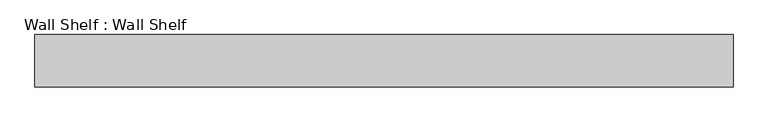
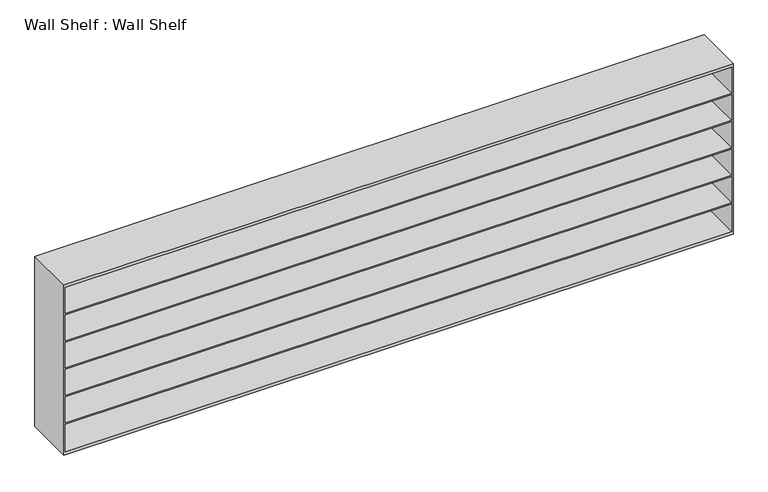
"""IFC4 building model written with IfcOpenShell, lengths in millimetres: furniture geometry, Wall Shelf : Wall Shelf."""

from ifc_helpers import new_model, si_unit, frame, origin, place, context, project, spatial, circle_curve, source, transform, mapped, element, save
from ifc_brep_helpers import plane_surface, cylinder_surface, advanced_brep


def wall_shelf_wall_shelf_b198690f(model_context):
    return source(origin(), model_context, "Body", "AdvancedBrep", [
        advanced_brep(
        [(2712.63285, 203.2, 1473.2), (-2712.63285, 203.2, 1473.2), (-2712.63285, -203.2, 1473.2), (2712.63285, -203.2, 1473.2), (2699.93285, -203.2, 1447.8), (-2699.93285, -203.2, 1447.8), (-2699.93285, 190.5, 1447.8), (2699.93285, 190.5, 1447.8), (2712.63285, 203.2, 38.1), (2712.63285, 203.2, 12.7), (-2712.63285, 203.2, 12.7), (-2712.63285, 203.2, 38.1), (-2712.63285, -203.2, 12.7), (2712.63285, -203.2, 12.7), (2699.93285, -203.2, 1225.55), (-2699.93285, -203.2, 1225.55), (2699.93285, -203.2, 38.1), (-2699.93285, -203.2, 38.1), (-2699.93285, -203.2, 273.05), (2699.93285, -203.2, 273.05), (-2699.93285, -203.2, 1212.85), (2699.93285, -203.2, 1212.85), (2699.93285, -203.2, 990.6), (-2699.93285, -203.2, 990.6), (-2699.93285, -203.2, 977.9), (2699.93285, -203.2, 977.9), (2699.93285, -203.2, 755.65), (-2699.93285, -203.2, 755.65), (-2699.93285, -203.2, 742.95), (2699.93285, -203.2, 742.95), (2699.93285, -203.2, 520.7), (-2699.93285, -203.2, 520.7), (-2699.93285, -203.2, 508.0), (2699.93285, -203.2, 508.0), (2699.93285, -203.2, 285.75), (-2699.93285, -203.2, 285.75), (-2687.23285, 152.4, 12.7), (-2636.43285, 152.4, 12.7), (2636.43285, 152.4, 12.7), (2687.23285, 152.4, 12.7), (-2687.23285, -152.4, 12.7), (-2636.43285, -152.4, 12.7), (2636.43285, -152.4, 12.7), (2687.23285, -152.4, 12.7), (-2699.93285, 190.5, 1225.55), (-2699.93285, 190.5, 990.6), (-2699.93285, 190.5, 1212.85), (-2699.93285, 190.5, 755.65), (-2699.93285, 190.5, 977.9), (-2699.93285, 190.5, 520.7), (-2699.93285, 190.5, 742.95), (-2699.93285, 190.5, 285.75), (-2699.93285, 190.5, 508.0), (-2699.93285, 190.5, 38.1), (-2699.93285, 190.5, 273.05), (2699.93285, 190.5, 1225.55), (2699.93285, 190.5, 990.6), (2699.93285, 190.5, 1212.85), (2699.93285, 190.5, 755.65), (2699.93285, 190.5, 977.9), (2699.93285, 190.5, 520.7), (2699.93285, 190.5, 742.95), (2699.93285, 190.5, 285.75), (2699.93285, 190.5, 508.0), (2699.93285, 190.5, 38.1), (2699.93285, 190.5, 273.05), (-2687.23285, 152.4, 0.0), (-2636.43285, 152.4, 0.0), (2636.43285, 152.4, 0.0), (2687.23285, 152.4, 0.0), (-2687.23285, -152.4, 0.0), (-2636.43285, -152.4, 0.0), (2636.43285, -152.4, 0.0), (2687.23285, -152.4, 0.0)],
        [
            (0, 1),
            (1, 2),
            (2, 3),
            (3, 0),
            (4, 5),
            (5, 6),
            (6, 7),
            (7, 4),
            (0, 8),
            (8, 9),
            (9, 10),
            (10, 11),
            (11, 1),
            (10, 12),
            (12, 2),
            (12, 13),
            (13, 3),
            (4, 14),
            (14, 15),
            (15, 5),
            (16, 17),
            (17, 18),
            (18, 19),
            (19, 16),
            (20, 21),
            (21, 22),
            (22, 23),
            (23, 20),
            (24, 25),
            (25, 26),
            (26, 27),
            (27, 24),
            (28, 29),
            (29, 30),
            (30, 31),
            (31, 28),
            (32, 33),
            (33, 34),
            (34, 35),
            (35, 32),
            (13, 9),
            (36, 37, circle_curve(frame((-2661.83285, 152.4, 12.7), z_axis=(0.0, 0.0, 1.0), x_axis=(1.0, 0.0, 0.0)), 25.4)),
            (37, 36, circle_curve(frame((-2661.83285, 152.4, 12.7), z_axis=(0.0, 0.0, 1.0), x_axis=(1.0, 0.0, 0.0)), 25.4)),
            (38, 39, circle_curve(frame((2661.83285, 152.4, 12.7), z_axis=(0.0, 0.0, 1.0), x_axis=(1.0, 0.0, 0.0)), 25.4)),
            (39, 38, circle_curve(frame((2661.83285, 152.4, 12.7), z_axis=(0.0, 0.0, 1.0), x_axis=(1.0, 0.0, 0.0)), 25.4)),
            (40, 41, circle_curve(frame((-2661.83285, -152.4, 12.7), z_axis=(0.0, 0.0, 1.0), x_axis=(1.0, 0.0, 0.0)), 25.4)),
            (41, 40, circle_curve(frame((-2661.83285, -152.4, 12.7), z_axis=(0.0, 0.0, 1.0), x_axis=(1.0, 0.0, 0.0)), 25.4)),
            (42, 43, circle_curve(frame((2661.83285, -152.4, 12.7), z_axis=(0.0, 0.0, 1.0), x_axis=(1.0, 0.0, 0.0)), 25.4)),
            (43, 42, circle_curve(frame((2661.83285, -152.4, 12.7), z_axis=(0.0, 0.0, 1.0), x_axis=(1.0, 0.0, 0.0)), 25.4)),
            (15, 44),
            (44, 6),
            (23, 45),
            (45, 46),
            (46, 20),
            (27, 47),
            (47, 48),
            (48, 24),
            (31, 49),
            (49, 50),
            (50, 28),
            (35, 51),
            (51, 52),
            (52, 32),
            (17, 53),
            (53, 54),
            (54, 18),
            (44, 55),
            (55, 7),
            (45, 56),
            (56, 57),
            (57, 46),
            (47, 58),
            (58, 59),
            (59, 48),
            (49, 60),
            (60, 61),
            (61, 50),
            (51, 62),
            (62, 63),
            (63, 52),
            (53, 64),
            (64, 65),
            (65, 54),
            (55, 14),
            (21, 57),
            (56, 22),
            (25, 59),
            (58, 26),
            (29, 61),
            (60, 30),
            (33, 63),
            (62, 34),
            (64, 16),
            (19, 65),
            (66, 67, circle_curve(frame((-2661.83285, 152.4, 0.0), z_axis=(0.0, 0.0, -1.0), x_axis=(1.0, 0.0, 0.0)), 25.4)),
            (67, 66, circle_curve(frame((-2661.83285, 152.4, 0.0), z_axis=(0.0, 0.0, -1.0), x_axis=(1.0, 0.0, 0.0)), 25.4)),
            (68, 69, circle_curve(frame((2661.83285, 152.4, 0.0), z_axis=(0.0, 0.0, -1.0), x_axis=(1.0, 0.0, 0.0)), 25.4)),
            (69, 68, circle_curve(frame((2661.83285, 152.4, 0.0), z_axis=(0.0, 0.0, -1.0), x_axis=(1.0, 0.0, 0.0)), 25.4)),
            (70, 71, circle_curve(frame((-2661.83285, -152.4, 0.0), z_axis=(0.0, 0.0, -1.0), x_axis=(1.0, 0.0, 0.0)), 25.4)),
            (71, 70, circle_curve(frame((-2661.83285, -152.4, 0.0), z_axis=(0.0, 0.0, -1.0), x_axis=(1.0, 0.0, 0.0)), 25.4)),
            (72, 73, circle_curve(frame((2661.83285, -152.4, 0.0), z_axis=(0.0, 0.0, -1.0), x_axis=(1.0, 0.0, 0.0)), 25.4)),
            (73, 72, circle_curve(frame((2661.83285, -152.4, 0.0), z_axis=(0.0, 0.0, -1.0), x_axis=(1.0, 0.0, 0.0)), 25.4)),
            (67, 37),
            (36, 66),
            (69, 39),
            (38, 68),
            (71, 41),
            (40, 70),
            (73, 43),
            (42, 72),
        ],
        [
            plane_surface(frame((-2712.63285, 203.2, 1473.2), z_axis=(0.0, 0.0, 1.0), x_axis=(-1.0, 0.0, 0.0))),
            plane_surface(frame((-2712.63285, 203.2, 1447.8), z_axis=(0.0, 0.0, -1.0), x_axis=(1.0, 0.0, 0.0))),
            plane_surface(frame((2712.63285, 203.2, 1473.2), z_axis=(0.0, 1.0, 0.0), x_axis=(0.0, 0.0, -1.0))),
            plane_surface(frame((-2712.63285, 203.2, 1473.2), z_axis=(-1.0, 0.0, 0.0), x_axis=(0.0, 0.0, -1.0))),
            plane_surface(frame((-2712.63285, -203.2, 1473.2), z_axis=(0.0, -1.0, 0.0), x_axis=(0.0, 0.0, -1.0))),
            plane_surface(frame((2712.63285, -203.2, 1473.2), z_axis=(1.0, 0.0, 0.0), x_axis=(0.0, 0.0, -1.0))),
            plane_surface(frame((-2712.63285, 203.2, 12.7), z_axis=(0.0, 0.0, -1.0), x_axis=(1.0, 0.0, 0.0))),
            plane_surface(frame((-2699.93285, -203.2, 1473.2), z_axis=(1.0, 0.0, 0.0), x_axis=(0.0, 0.0, -1.0))),
            plane_surface(frame((-2699.93285, 190.5, 1473.2), z_axis=(0.0, -1.0, 0.0), x_axis=(0.0, 0.0, -1.0))),
            plane_surface(frame((2699.93285, 190.5, 1473.2), z_axis=(-1.0, 0.0, 0.0), x_axis=(0.0, 0.0, -1.0))),
            plane_surface(frame((-2712.63285, 203.2, 38.1), z_axis=(0.0, 0.0, 1.0), x_axis=(-1.0, 0.0, 0.0))),
            plane_surface(frame((2699.93285, -203.2, 1225.55), z_axis=(0.0, 0.0, 1.0), x_axis=(0.0, 1.0, 0.0))),
            plane_surface(frame((-2699.93285, -203.2, 1212.85), z_axis=(0.0, 0.0, -1.0), x_axis=(0.0, 1.0, 0.0))),
            plane_surface(frame((2699.93285, -203.2, 990.6), z_axis=(0.0, 0.0, 1.0), x_axis=(0.0, 1.0, 0.0))),
            plane_surface(frame((-2699.93285, -203.2, 977.9), z_axis=(0.0, 0.0, -1.0), x_axis=(0.0, 1.0, 0.0))),
            plane_surface(frame((2699.93285, -203.2, 755.65), z_axis=(0.0, 0.0, 1.0), x_axis=(0.0, 1.0, 0.0))),
            plane_surface(frame((-2699.93285, -203.2, 742.95), z_axis=(0.0, 0.0, -1.0), x_axis=(0.0, 1.0, 0.0))),
            plane_surface(frame((2699.93285, -203.2, 520.7), z_axis=(0.0, 0.0, 1.0), x_axis=(0.0, 1.0, 0.0))),
            plane_surface(frame((-2699.93285, -203.2, 508.0), z_axis=(0.0, 0.0, -1.0), x_axis=(0.0, 1.0, 0.0))),
            plane_surface(frame((2699.93285, -203.2, 285.75), z_axis=(0.0, 0.0, 1.0), x_axis=(0.0, 1.0, 0.0))),
            plane_surface(frame((-2699.93285, -203.2, 273.05), z_axis=(0.0, 0.0, -1.0), x_axis=(0.0, 1.0, 0.0))),
            plane_surface(frame((-2636.43285, 152.4, 0.0), z_axis=(0.0, 0.0, -1.0), x_axis=(0.0, -1.0, 0.0))),
            cylinder_surface(frame((-2661.83285, 152.4, 0.0), z_axis=(0.0, 0.0, 1.0), x_axis=(1.0, 0.0, 0.0)), 25.4),
            cylinder_surface(frame((2661.83285, 152.4, 0.0), z_axis=(0.0, 0.0, 1.0), x_axis=(1.0, 0.0, 0.0)), 25.4),
            cylinder_surface(frame((-2661.83285, -152.4, 0.0), z_axis=(0.0, 0.0, 1.0), x_axis=(1.0, 0.0, 0.0)), 25.4),
            cylinder_surface(frame((2661.83285, -152.4, 0.0), z_axis=(0.0, 0.0, 1.0), x_axis=(1.0, 0.0, 0.0)), 25.4),
        ],
        [
            (0, [[1, 2, 3, 4]]),
            (1, [[5, 6, 7, 8]]),
            (2, [[-1, 9, 10, 11, 12, 13]]),
            (3, [[-2, -13, -12, 14, 15]]),
            (4, [[-3, -15, 16, 17], [-5, 18, 19, 20], [21, 22, 23, 24], [25, 26, 27, 28], [29, 30, 31, 32], [33, 34, 35, 36], [37, 38, 39, 40]]),
            (5, [[-4, -17, 41, -10, -9]]),
            (6, [[-41, -16, -14, -11], [42, 43], [44, 45], [46, 47], [48, 49]]),
            (7, [[-6, -20, 50, 51]]),
            (7, [[-28, 52, 53, 54]]),
            (7, [[-32, 55, 56, 57]]),
            (7, [[-36, 58, 59, 60]]),
            (7, [[-40, 61, 62, 63]]),
            (7, [[64, 65, 66, -22]]),
            (8, [[-7, -51, 67, 68]]),
            (8, [[-53, 69, 70, 71]]),
            (8, [[-56, 72, 73, 74]]),
            (8, [[-59, 75, 76, 77]]),
            (8, [[-62, 78, 79, 80]]),
            (8, [[81, 82, 83, -65]]),
            (9, [[-8, -68, 84, -18]]),
            (9, [[-26, 85, -70, 86]]),
            (9, [[-30, 87, -73, 88]]),
            (9, [[-34, 89, -76, 90]]),
            (9, [[-38, 91, -79, 92]]),
            (9, [[93, -24, 94, -82]]),
            (10, [[-21, -93, -81, -64]]),
            (11, [[-19, -84, -67, -50]]),
            (12, [[-25, -54, -71, -85]]),
            (13, [[-27, -86, -69, -52]]),
            (14, [[-29, -57, -74, -87]]),
            (15, [[-31, -88, -72, -55]]),
            (16, [[-33, -60, -77, -89]]),
            (17, [[-35, -90, -75, -58]]),
            (18, [[-37, -63, -80, -91]]),
            (19, [[-39, -92, -78, -61]]),
            (20, [[-23, -66, -83, -94]]),
            (21, [[95, 96]]),
            (21, [[97, 98]]),
            (21, [[99, 100]]),
            (21, [[101, 102]]),
            (22, [[-96, 103, -42, 104]]),
            (22, [[-95, -104, -43, -103]]),
            (23, [[-98, 105, -44, 106]]),
            (23, [[-97, -106, -45, -105]]),
            (24, [[-100, 107, -46, 108]]),
            (24, [[-99, -108, -47, -107]]),
            (25, [[-102, 109, -48, 110]]),
            (25, [[-101, -110, -49, -109]]),
        ],
    ),
    ])


if __name__ == "__main__":
    model = new_model("IFC4")
    model_context = context("Model", 3, world=origin())
    ifc_project = project(units=[si_unit("LENGTHUNIT", "METRE", prefix="MILLI")], contexts=[model_context])
    site = spatial("IfcSite", under=ifc_project)
    building = spatial("IfcBuilding", under=site)
    placement = place(None, origin())
    wall_shelf_wall_shelf_shape = wall_shelf_wall_shelf_b198690f(model_context)
    element("IfcFurniture", 1, ObjectType="Wall Shelf : Wall Shelf", at=placement, inside=building, context=model_context, shape_type="MappedRepresentation", body=[
        mapped(wall_shelf_wall_shelf_shape, transform((0.0, 0.0, 0.0), x_axis=(1.0, 0.0, 0.0), y_axis=(0.0, 1.0, 0.0), z_axis=(0.0, 0.0, 1.0))),
    ])
    save(model, "model.ifc")
